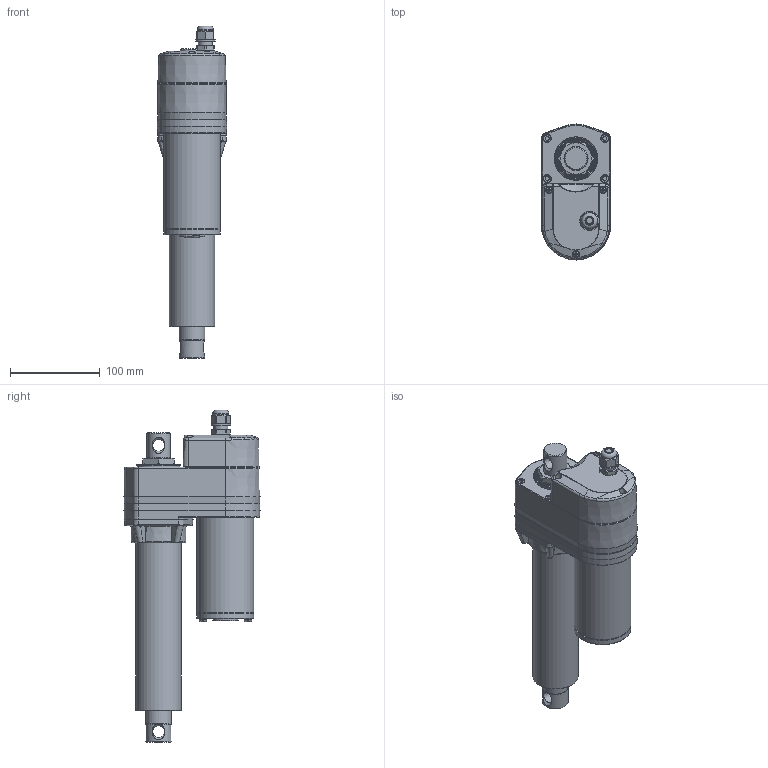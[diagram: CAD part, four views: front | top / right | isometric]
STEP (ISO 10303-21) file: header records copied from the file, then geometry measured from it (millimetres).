
FILE_DESCRIPTION (( 'STEP AP203' ), '1' );
FILE_NAME ('ID1011-A-with LT-102.STEP', '2014-06-09T02:02:42', ( '' ), ( '' ), 'SwSTEP 2.0', 'SolidWorks 2013', '' );
FILE_SCHEMA (( 'CONFIG_CONTROL_DESIGN' ));
Length unit declared in the file: millimetre
Products named in the file (3): ID1011-A-with LT-102-2; ID1011-A-with LT-102; ID1011-A-with LT-102-1
Assembly tree (2 placements, depth 2):
  ID1011-A-with LT-102
    ID1011-A-with LT-102-1
    ID1011-A-with LT-102-2
Bounding box: 77.15 x 151.65 x 370.2 mm (x, y, z)
Volume: 1686427.6 mm3; surface area: 152349.9 mm2
Topology: 2 solids, 7 shells, 981 faces, 2560 edges, 1622 vertices
Faces by surface type: plane 605, cylinder 178, bspline 110, torus 47, cone 41
Full cylindrical faces by diameter (mm): 7 x1, 7.1 x3, 8.5 x7, 9 x6, 13 x2, 15.7 x1, 16.2 x1, 17.8 x1, 21.6 x1, 26 x1, 28 x2, 28.1 x1, 28.6 x3, 48.2 x1, 50.8 x1, 63.2 x1, 63.5 x2
Entity records: 34667 total; most frequent: CARTESIAN_POINT 13117, ORIENTED_EDGE 4936, DIRECTION 3854, EDGE_CURVE 2468, VERTEX_POINT 1603, AXIS2_PLACEMENT_3D 1406, EDGE_LOOP 1087, LINE 1042
